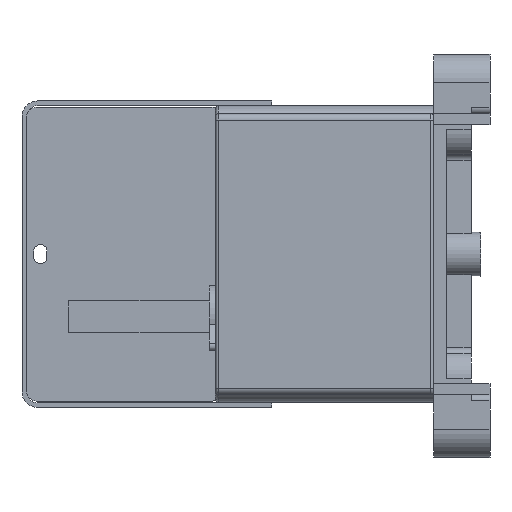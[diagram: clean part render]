
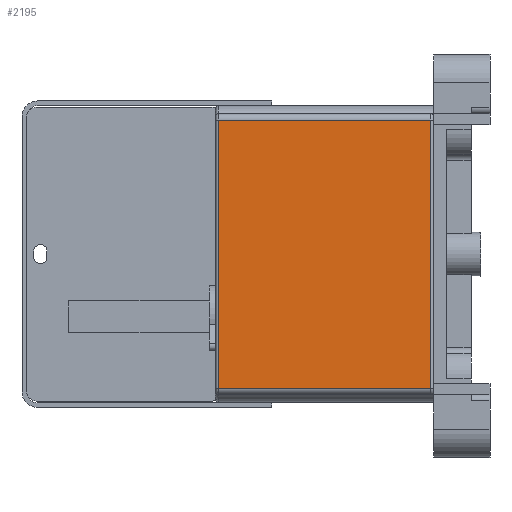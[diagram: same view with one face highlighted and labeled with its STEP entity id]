
A CAD part, left-side view. The second image highlights one B-rep face of the part: STEP entity #2195.
In plain terms, the highlighted planar face has unit normal (-1, 0, 0).
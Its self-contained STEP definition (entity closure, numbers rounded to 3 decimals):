
#2195=ADVANCED_FACE('',(#3576),#2772,.F.);
#2772=PLANE('',#18825);
#3576=FACE_OUTER_BOUND('',#4645,.T.);
#4645=EDGE_LOOP('',(#9246,#9247,#9248,#9249));
#9246=ORIENTED_EDGE('',*,*,#13709,.F.);
#9247=ORIENTED_EDGE('',*,*,#13694,.T.);
#9248=ORIENTED_EDGE('',*,*,#13710,.T.);
#9249=ORIENTED_EDGE('',*,*,#13394,.T.);
#11083=VERTEX_POINT('',#28054);
#11087=VERTEX_POINT('',#28063);
#11267=VERTEX_POINT('',#28750);
#11271=VERTEX_POINT('',#28782);
#13394=EDGE_CURVE('',#11083,#11087,#15334,.T.);
#13694=EDGE_CURVE('',#11267,#11271,#15494,.T.);
#13709=EDGE_CURVE('',#11267,#11087,#15501,.T.);
#13710=EDGE_CURVE('',#11271,#11083,#15502,.T.);
#15334=LINE('',#28064,#17126);
#15494=LINE('',#28783,#17286);
#15501=LINE('',#28836,#17293);
#15502=LINE('',#28838,#17294);
#17126=VECTOR('',#22941,1.);
#17286=VECTOR('',#23591,1.);
#17293=VECTOR('',#23618,1.);
#17294=VECTOR('',#23621,1.);
#18825=AXIS2_PLACEMENT_3D('',#28839,#23622,#23623);
#22941=DIRECTION('',(0.,0.,1.));
#23591=DIRECTION('',(0.,0.,-1.));
#23618=DIRECTION('',(0.,-1.,0.));
#23621=DIRECTION('',(0.,-1.,0.));
#23622=DIRECTION('',(1.,0.,0.));
#23623=DIRECTION('',(0.,0.,-1.));
#28054=CARTESIAN_POINT('',(-41.,1.,-43.));
#28063=CARTESIAN_POINT('',(-41.,1.,43.));
#28064=CARTESIAN_POINT('',(-41.,1.,-43.));
#28750=CARTESIAN_POINT('',(-41.,69.,43.));
#28782=CARTESIAN_POINT('',(-41.,69.,-43.));
#28783=CARTESIAN_POINT('',(-41.,69.,-43.));
#28836=CARTESIAN_POINT('',(-41.,35.,43.));
#28838=CARTESIAN_POINT('',(-41.,35.,-43.));
#28839=CARTESIAN_POINT('',(-41.,35.,-43.));
